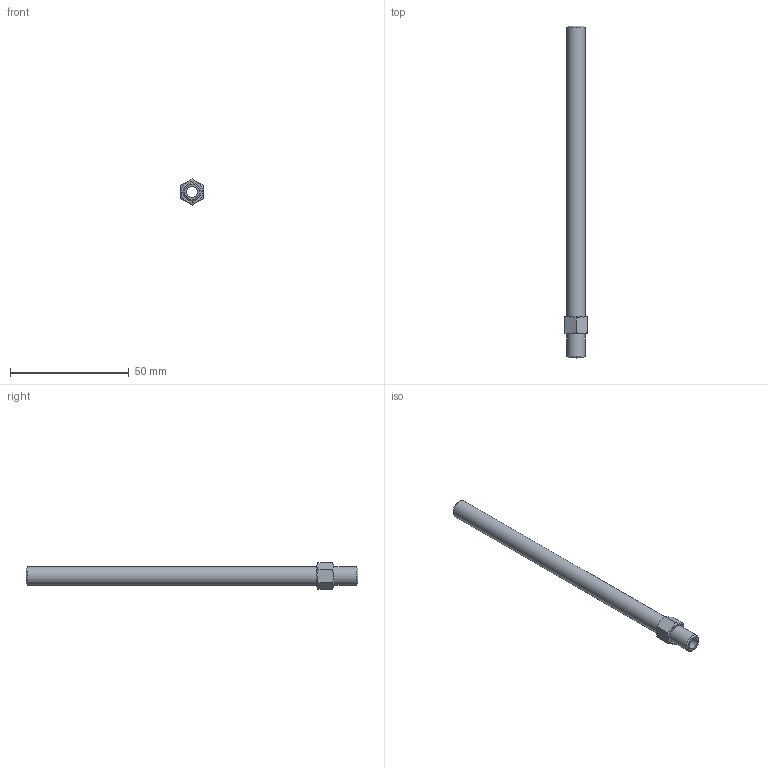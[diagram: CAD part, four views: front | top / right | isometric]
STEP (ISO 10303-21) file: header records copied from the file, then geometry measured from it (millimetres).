
FILE_DESCRIPTION(/* description */ (''),/* implementation_level */ '2;1');
FILE_NAME(/* name */ 'C:/Users/drich/Desktop/APN16-5-1_2 v1.step',/* time_stamp */ '2019-12-27T17:49:24-06:00',/* author */ (''),/* organization */ (''),/* preprocessor_version */ 'ST-DEVELOPER v18',/* originating_system */ 'Autodesk Translation Framework v8.12.0.6',/* authorisation */ '');
FILE_SCHEMA (('AUTOMOTIVE_DESIGN { 1 0 10303 214 3 1 1 }'));
Length unit declared in the file: inch
Products named in the file (1): APN16-5-1_2
Bounding box: 9.5 x 139.7 x 10.97 mm (x, y, z)
Volume: 4139.1 mm3; surface area: 5569.5 mm2
Topology: 1 solids, 1 shells, 17 faces, 39 edges, 26 vertices
Faces by surface type: plane 10, cone 4, cylinder 3
Full cylindrical faces by diameter (mm): 4.724 x1, 7.616 x2
Entity records: 521 total; most frequent: CARTESIAN_POINT 107, ORIENTED_EDGE 78, DIRECTION 77, EDGE_CURVE 39, AXIS2_PLACEMENT_3D 32, VERTEX_POINT 26, EDGE_LOOP 21, FACE_OUTER_BOUND 17
